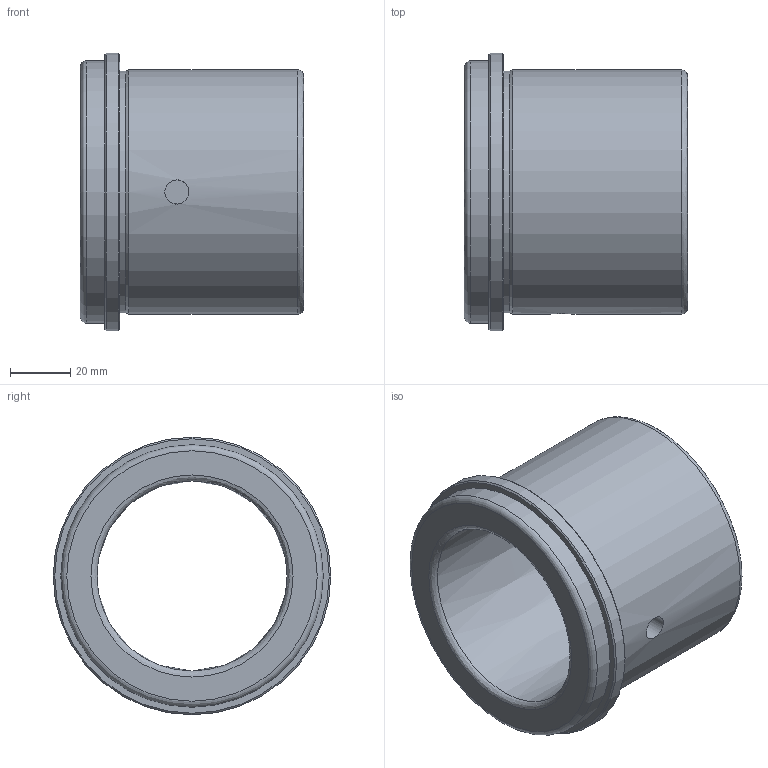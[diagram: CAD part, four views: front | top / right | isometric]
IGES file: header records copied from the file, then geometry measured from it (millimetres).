
Global section: file name: BE63C.ipt; native system: Autodesk Inventor 2021; preprocessor: unknown; author: SM; date: 20211217.140757; units: millimetre
Bounding box: 74 x 92 x 92 mm (x, y, z)
Volume: 162817.7 mm3; surface area: 40173 mm2
Topology: 1 solids, 1 shells, 17 faces, 45 edges, 31 vertices
Faces by surface type: revolution 6, plane 4, cylinder 4, cone 3
Full cylindrical faces by diameter (mm): 80 x1, 81 x1, 87 x1, 92 x1
